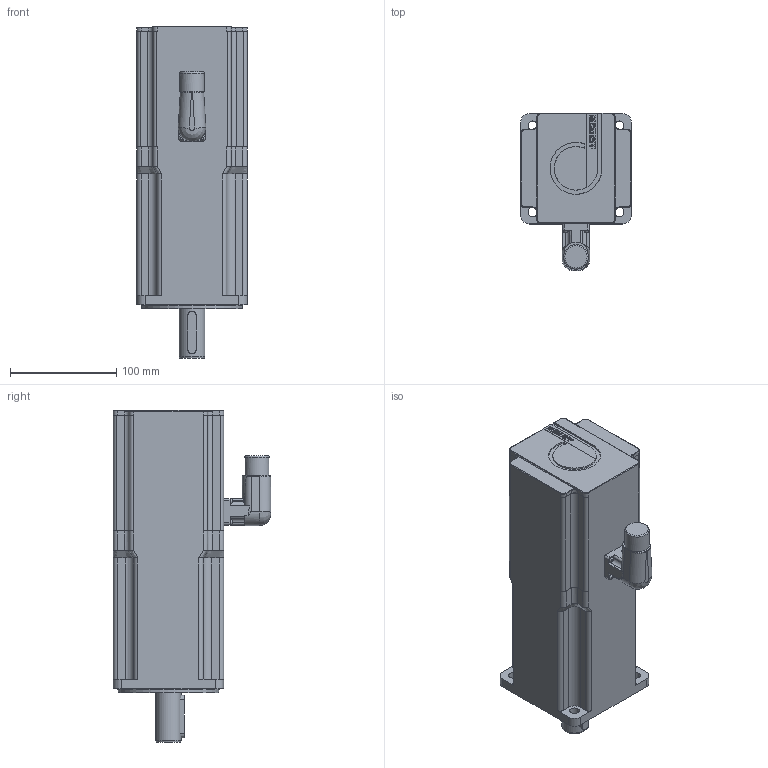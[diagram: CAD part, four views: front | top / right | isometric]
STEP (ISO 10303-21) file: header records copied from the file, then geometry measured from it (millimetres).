
FILE_DESCRIPTION(/* description */ (''),/* implementation_level */ '2;1');
FILE_NAME(/* name */ 'C:\Autodesk Vault\AUTODESK_VAULT\CAD\000-FERTIG Motors\UM-Motoren\UM100\_Gesamtbaugruppen\vereinfachte_Modelle\2020_12_02_AMP0852-xxx0-xxxx.stp',/* time_stamp */ '2020-12-02T15:56:08+01:00',/* author */ ('JoachimH'),/* organization */ ('FERTIG Motors'),/* preprocessor_version */ 'ST-DEVELOPER v18.1',/* originating_system */ 'Autodesk Inventor 2020',/* authorisation */ '');
FILE_SCHEMA (('AUTOMOTIVE_DESIGN { 1 0 10303 214 3 1 1 }'));
Length unit declared in the file: millimetre
Products named in the file (4): UM085-VM-V01; UM100-VM-00; EtherCATP_M23-VM; DIN 6885-A8x7x40
Assembly tree (3 placements, depth 2):
  UM085-VM-V01
    UM100-VM-00
    EtherCATP_M23-VM
    DIN 6885-A8x7x40
Bounding box: 104 x 148.4 x 313.02 mm (x, y, z)
Volume: 2609071 mm3; surface area: 141529 mm2
Topology: 3 solids, 3 shells, 392 faces, 1020 edges, 651 vertices
Faces by surface type: plane 219, cylinder 104, bspline 48, torus 17, cone 4
Full cylindrical faces by diameter (mm): 4.8 x4, 9 x4, 19.8 x1, 20.1 x1, 23 x1, 23.4 x1, 24 x1, 25 x1, 89 x1, 95 x1
Entity records: 13440 total; most frequent: CARTESIAN_POINT 3322, ORIENTED_EDGE 2032, DIRECTION 1974, EDGE_CURVE 1016, AXIS2_PLACEMENT_3D 691, VERTEX_POINT 651, LINE 592, VECTOR 592
